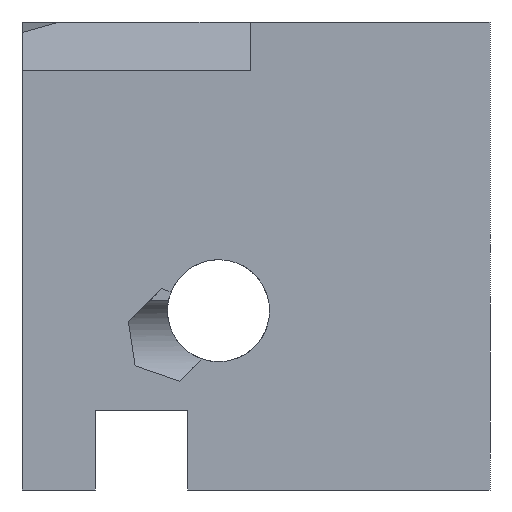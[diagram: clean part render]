
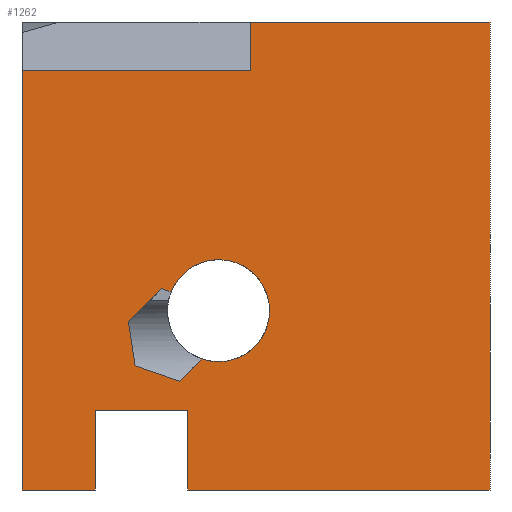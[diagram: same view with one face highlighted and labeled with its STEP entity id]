
A CAD part, front view. The second image highlights one B-rep face of the part: STEP entity #1262.
In plain terms, the highlighted planar face has unit normal (0, -1, 0).
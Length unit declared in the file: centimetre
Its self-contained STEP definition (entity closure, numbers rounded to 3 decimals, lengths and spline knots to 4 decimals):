
#11 = DIRECTION ( 'NONE',  ( 0.154, 0., -0.988 ) ) ;
#60 = VECTOR ( 'NONE', #704, 100. ) ;
#63 = LINE ( 'NONE', #1403, #2206 ) ;
#96 = CARTESIAN_POINT ( 'NONE',  ( 419.9862, 0., 383.1308 ) ) ;
#112 = LINE ( 'NONE', #1274, #2888 ) ;
#116 = EDGE_CURVE ( 'NONE', #2430, #2102, #2532, .T. ) ;
#127 = VERTEX_POINT ( 'NONE', #2282 ) ;
#129 = DIRECTION ( 'NONE',  ( 0., 0., -1. ) ) ;
#142 = CARTESIAN_POINT ( 'NONE',  ( 0., 0., 0. ) ) ;
#161 = CARTESIAN_POINT ( 'NONE',  ( 487.6251, 0., 895.8781 ) ) ;
#281 = EDGE_CURVE ( 'NONE', #2430, #2010, #3459, .T. ) ;
#346 = EDGE_CURVE ( 'NONE', #127, #3052, #975, .T. ) ;
#348 = CARTESIAN_POINT ( 'NONE',  ( 337.1765, 0., 232.5432 ) ) ;
#375 = CARTESIAN_POINT ( 'NONE',  ( 419.9862, 0., 383.1308 ) ) ;
#405 = CARTESIAN_POINT ( 'NONE',  ( 318.5815, 0., 423.4394 ) ) ;
#422 = CARTESIAN_POINT ( 'NONE',  ( 0., 0., 0. ) ) ;
#453 = ORIENTED_EDGE ( 'NONE', *, *, #1999, .F. ) ;
#482 = CARTESIAN_POINT ( 'NONE',  ( 353.9869, 0., 0. ) ) ;
#522 = AXIS2_PLACEMENT_3D ( 'NONE', #375, #1214, #3087 ) ;
#577 = VECTOR ( 'NONE', #129, 100. ) ;
#608 = AXIS2_PLACEMENT_3D ( 'NONE', #1989, #3271, #1425 ) ;
#624 = LINE ( 'NONE', #348, #1086 ) ;
#630 = VERTEX_POINT ( 'NONE', #3065 ) ;
#645 = ORIENTED_EDGE ( 'NONE', *, *, #281, .F. ) ;
#666 = CARTESIAN_POINT ( 'NONE',  ( 419.9862, 0., 492.2531 ) ) ;
#673 = ORIENTED_EDGE ( 'NONE', *, *, #1782, .T. ) ;
#681 = ORIENTED_EDGE ( 'NONE', *, *, #346, .T. ) ;
#704 = DIRECTION ( 'NONE',  ( 0., 0., 1. ) ) ;
#705 = CARTESIAN_POINT ( 'NONE',  ( 384.5543, 0., 279.9209 ) ) ;
#769 = ORIENTED_EDGE ( 'NONE', *, *, #2721, .T. ) ;
#776 = CARTESIAN_POINT ( 'NONE',  ( 1000., 0., 1000. ) ) ;
#802 = AXIS2_PLACEMENT_3D ( 'NONE', #2268, #1680, #2576 ) ;
#839 = EDGE_CURVE ( 'NONE', #1061, #3289, #1896, .T. ) ;
#878 = ORIENTED_EDGE ( 'NONE', *, *, #2285, .F. ) ;
#913 = ORIENTED_EDGE ( 'NONE', *, *, #2095, .T. ) ;
#953 = CARTESIAN_POINT ( 'NONE',  ( 353.9869, 0., 169.0126 ) ) ;
#975 = LINE ( 'NONE', #2896, #577 ) ;
#1010 = DIRECTION ( 'NONE',  ( -0.946, 0., 0.323 ) ) ;
#1032 = VECTOR ( 'NONE', #1471, 100. ) ;
#1061 = VERTEX_POINT ( 'NONE', #776 ) ;
#1086 = VECTOR ( 'NONE', #2812, 100. ) ;
#1129 = FACE_BOUND ( 'NONE', #1266, .T. ) ;
#1211 = VECTOR ( 'NONE', #1258, 100. ) ;
#1214 = DIRECTION ( 'NONE',  ( 0., 1., 0. ) ) ;
#1258 = DIRECTION ( 'NONE',  ( 0.946, 0., -0.323 ) ) ;
#1262 = ADVANCED_FACE ( 'NONE', ( #1129, #3045 ), #2765, .F. ) ;
#1266 = EDGE_LOOP ( 'NONE', ( #645, #2598, #913, #2027, #878, #1321, #1577, #1972 ) ) ;
#1274 = CARTESIAN_POINT ( 'NONE',  ( 487.6251, 0., 895.8781 ) ) ;
#1302 = VERTEX_POINT ( 'NONE', #1647 ) ;
#1312 = CARTESIAN_POINT ( 'NONE',  ( 0., 0., 1000. ) ) ;
#1321 = ORIENTED_EDGE ( 'NONE', *, *, #1768, .F. ) ;
#1353 = EDGE_CURVE ( 'NONE', #3423, #1668, #63, .T. ) ;
#1403 = CARTESIAN_POINT ( 'NONE',  ( 227.118, 0., 359.2611 ) ) ;
#1405 = VERTEX_POINT ( 'NONE', #3006 ) ;
#1411 = CARTESIAN_POINT ( 'NONE',  ( 0., 0., 0. ) ) ;
#1422 = LINE ( 'NONE', #2228, #1711 ) ;
#1425 = DIRECTION ( 'NONE',  ( 0., 0., 1. ) ) ;
#1471 = DIRECTION ( 'NONE',  ( 1., 0., 0. ) ) ;
#1492 = LINE ( 'NONE', #2782, #2957 ) ;
#1577 = ORIENTED_EDGE ( 'NONE', *, *, #1353, .F. ) ;
#1631 = VERTEX_POINT ( 'NONE', #482 ) ;
#1647 = CARTESIAN_POINT ( 'NONE',  ( 487.6251, 0., 895.8781 ) ) ;
#1668 = VERTEX_POINT ( 'NONE', #2678 ) ;
#1667 = CARTESIAN_POINT ( 'NONE',  ( 1000., 0., 0. ) ) ;
#1680 = DIRECTION ( 'NONE',  ( 0., 1., 0. ) ) ;
#1686 = ORIENTED_EDGE ( 'NONE', *, *, #3504, .T. ) ;
#1694 = VECTOR ( 'NONE', #2903, 100. ) ;
#1711 = VECTOR ( 'NONE', #2796, 100. ) ;
#1768 = EDGE_CURVE ( 'NONE', #1668, #1405, #1792, .T. ) ;
#1773 = LINE ( 'NONE', #1312, #1886 ) ;
#1776 = DIRECTION ( 'NONE',  ( -0.707, 0., -0.707 ) ) ;
#1782 = EDGE_CURVE ( 'NONE', #1631, #3289, #2021, .T. ) ;
#1792 = LINE ( 'NONE', #2865, #1211 ) ;
#1801 = CARTESIAN_POINT ( 'NONE',  ( 419.9862, 0., 274.0084 ) ) ;
#1816 = VECTOR ( 'NONE', #2602, 100. ) ;
#1864 = LINE ( 'NONE', #3179, #1694 ) ;
#1870 = ORIENTED_EDGE ( 'NONE', *, *, #2398, .F. ) ;
#1886 = VECTOR ( 'NONE', #3121, 100. ) ;
#1892 = CIRCLE ( 'NONE', #802, 109.1224 ) ;
#1896 = LINE ( 'NONE', #2468, #2965 ) ;
#1904 = AXIS2_PLACEMENT_3D ( 'NONE', #96, #3300, #1983 ) ;
#1972 = ORIENTED_EDGE ( 'NONE', *, *, #3356, .F. ) ;
#1983 = DIRECTION ( 'NONE',  ( 0., 0., 1. ) ) ;
#1989 = CARTESIAN_POINT ( 'NONE',  ( 0., 0., 1000. ) ) ;
#1999 = EDGE_CURVE ( 'NONE', #1302, #630, #2619, .T. ) ;
#2010 = VERTEX_POINT ( 'NONE', #2349 ) ;
#2014 = LINE ( 'NONE', #142, #1816 ) ;
#2021 = LINE ( 'NONE', #422, #1032 ) ;
#2025 = CARTESIAN_POINT ( 'NONE',  ( 227.118, 0., 359.2611 ) ) ;
#2027 = ORIENTED_EDGE ( 'NONE', *, *, #2213, .T. ) ;
#2078 = VERTEX_POINT ( 'NONE', #1801 ) ;
#2094 = VERTEX_POINT ( 'NONE', #953 ) ;
#2095 = EDGE_CURVE ( 'NONE', #2102, #2078, #2860, .T. ) ;
#2102 = VERTEX_POINT ( 'NONE', #666 ) ;
#2189 = EDGE_CURVE ( 'NONE', #2094, #1631, #1492, .T. ) ;
#2206 = VECTOR ( 'NONE', #11, 100. ) ;
#2213 = EDGE_CURVE ( 'NONE', #2078, #3151, #1892, .T. ) ;
#2228 = CARTESIAN_POINT ( 'NONE',  ( 156.5999, 0., 169.0126 ) ) ;
#2245 = EDGE_CURVE ( 'NONE', #2535, #2094, #1422, .T. ) ;
#2268 = CARTESIAN_POINT ( 'NONE',  ( 419.9862, 0., 383.1308 ) ) ;
#2282 = CARTESIAN_POINT ( 'NONE',  ( 0., 0., 895.8781 ) ) ;
#2285 = EDGE_CURVE ( 'NONE', #1405, #3151, #624, .T. ) ;
#2290 = LINE ( 'NONE', #2835, #2717 ) ;
#2291 = ORIENTED_EDGE ( 'NONE', *, *, #2245, .T. ) ;
#2349 = CARTESIAN_POINT ( 'NONE',  ( 298.2461, 0., 430.3891 ) ) ;
#2398 = EDGE_CURVE ( 'NONE', #630, #1061, #1773, .T. ) ;
#2430 = VERTEX_POINT ( 'NONE', #405 ) ;
#2468 = CARTESIAN_POINT ( 'NONE',  ( 1000., 0., 1000. ) ) ;
#2503 = DIRECTION ( 'NONE',  ( 0., 0., -1. ) ) ;
#2510 = ORIENTED_EDGE ( 'NONE', *, *, #2189, .T. ) ;
#2532 = CIRCLE ( 'NONE', #1904, 109.1224 ) ;
#2535 = VERTEX_POINT ( 'NONE', #3355 ) ;
#2576 = DIRECTION ( 'NONE',  ( 0., 0., 1. ) ) ;
#2598 = ORIENTED_EDGE ( 'NONE', *, *, #116, .T. ) ;
#2602 = DIRECTION ( 'NONE',  ( 1., 0., 0. ) ) ;
#2619 = LINE ( 'NONE', #161, #60 ) ;
#2660 = ORIENTED_EDGE ( 'NONE', *, *, #839, .F. ) ;
#2678 = CARTESIAN_POINT ( 'NONE',  ( 241.7741, 0., 265.1473 ) ) ;
#2717 = VECTOR ( 'NONE', #1776, 100. ) ;
#2721 = EDGE_CURVE ( 'NONE', #1302, #127, #112, .T. ) ;
#2765 = PLANE ( 'NONE',  #608 ) ;
#2782 = CARTESIAN_POINT ( 'NONE',  ( 353.9869, 0., 0. ) ) ;
#2786 = VERTEX_POINT ( 'NONE', #2844 ) ;
#2796 = DIRECTION ( 'NONE',  ( 1., 0., 0. ) ) ;
#2812 = DIRECTION ( 'NONE',  ( 0.707, 0., 0.707 ) ) ;
#2835 = CARTESIAN_POINT ( 'NONE',  ( 298.2461, 0., 430.3891 ) ) ;
#2844 = CARTESIAN_POINT ( 'NONE',  ( 156.5999, 0., 0. ) ) ;
#2860 = CIRCLE ( 'NONE', #522, 109.1224 ) ;
#2865 = CARTESIAN_POINT ( 'NONE',  ( 241.7741, 0., 265.1473 ) ) ;
#2888 = VECTOR ( 'NONE', #2897, 100. ) ;
#2896 = CARTESIAN_POINT ( 'NONE',  ( 0., 0., 1000. ) ) ;
#2897 = DIRECTION ( 'NONE',  ( -1., 0., 0. ) ) ;
#2903 = DIRECTION ( 'NONE',  ( 0., 0., 1. ) ) ;
#2957 = VECTOR ( 'NONE', #3059, 100. ) ;
#2965 = VECTOR ( 'NONE', #2503, 100. ) ;
#3006 = CARTESIAN_POINT ( 'NONE',  ( 337.1765, 0., 232.5432 ) ) ;
#3045 = FACE_OUTER_BOUND ( 'NONE', #3199, .T. ) ;
#3052 = VERTEX_POINT ( 'NONE', #1411 ) ;
#3059 = DIRECTION ( 'NONE',  ( 0., 0., -1. ) ) ;
#3065 = CARTESIAN_POINT ( 'NONE',  ( 487.6251, 0., 1000. ) ) ;
#3082 = ORIENTED_EDGE ( 'NONE', *, *, #3192, .T. ) ;
#3087 = DIRECTION ( 'NONE',  ( 0., 0., 1. ) ) ;
#3121 = DIRECTION ( 'NONE',  ( 1., 0., 0. ) ) ;
#3151 = VERTEX_POINT ( 'NONE', #705 ) ;
#3169 = CARTESIAN_POINT ( 'NONE',  ( 393.6485, 0., 397.785 ) ) ;
#3179 = CARTESIAN_POINT ( 'NONE',  ( 156.5999, 0., 0. ) ) ;
#3192 = EDGE_CURVE ( 'NONE', #3052, #2786, #2014, .T. ) ;
#3199 = EDGE_LOOP ( 'NONE', ( #453, #769, #681, #3082, #1686, #2291, #2510, #673, #2660, #1870 ) ) ;
#3271 = DIRECTION ( 'NONE',  ( 0., 1., 0. ) ) ;
#3289 = VERTEX_POINT ( 'NONE', #1667 ) ;
#3300 = DIRECTION ( 'NONE',  ( 0., 1., 0. ) ) ;
#3355 = CARTESIAN_POINT ( 'NONE',  ( 156.5999, 0., 169.0126 ) ) ;
#3356 = EDGE_CURVE ( 'NONE', #2010, #3423, #2290, .T. ) ;
#3423 = VERTEX_POINT ( 'NONE', #2025 ) ;
#3447 = VECTOR ( 'NONE', #1010, 100. ) ;
#3459 = LINE ( 'NONE', #3169, #3447 ) ;
#3504 = EDGE_CURVE ( 'NONE', #2786, #2535, #1864, .T. ) ;
